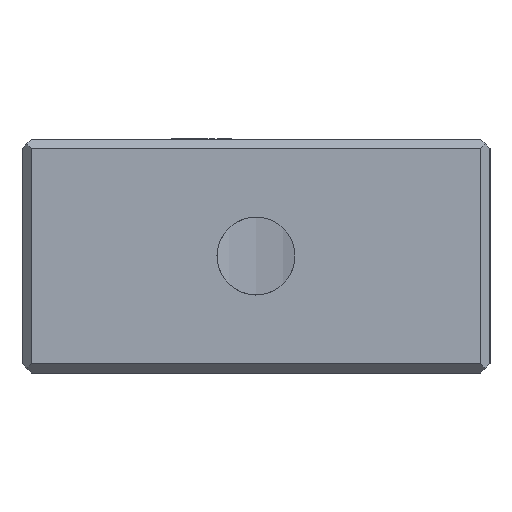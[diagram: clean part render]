
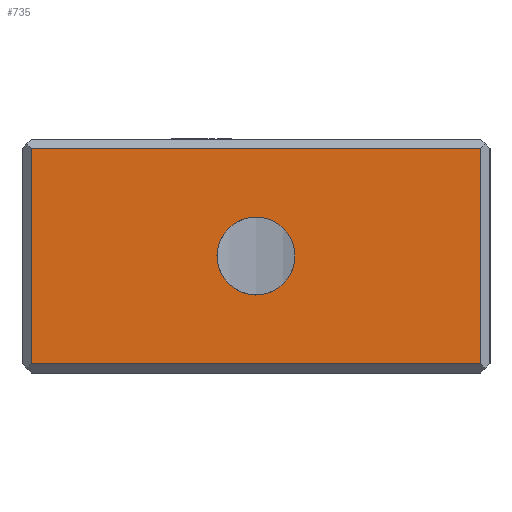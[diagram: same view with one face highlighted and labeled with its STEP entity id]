
A CAD part, left-side view. The second image highlights one B-rep face of the part: STEP entity #735.
In plain terms, the highlighted planar face has unit normal (-1, 0, 0).
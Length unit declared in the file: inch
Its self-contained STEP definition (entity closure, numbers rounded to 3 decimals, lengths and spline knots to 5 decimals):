
#685=CARTESIAN_POINT('',(0.0,0.75,0.0));
#686=DIRECTION('',(-1.0,0.0,0.0));
#687=DIRECTION('',(0.0,0.0,1.0));
#688=AXIS2_PLACEMENT_3D('',#685,#686,#687);
#689=PLANE('',#688);
#690=CARTESIAN_POINT('',(0.0,1.47,0.72));
#691=VERTEX_POINT('',#690);
#692=CARTESIAN_POINT('',(0.0,1.47,0.03));
#693=VERTEX_POINT('',#692);
#694=CARTESIAN_POINT('',(0.0,1.47,0.0));
#695=DIRECTION('',(0.0,0.0,-1.0));
#696=VECTOR('',#695,1.0);
#697=LINE('',#694,#696);
#698=EDGE_CURVE('',#691,#693,#697,.T.);
#699=ORIENTED_EDGE('',*,*,#698,.T.);
#700=CARTESIAN_POINT('',(0.0,0.03,0.03));
#701=VERTEX_POINT('',#700);
#702=CARTESIAN_POINT('',(0.0,0.75,0.03));
#703=DIRECTION('',(0.0,-1.0,0.0));
#704=VECTOR('',#703,1.0);
#705=LINE('',#702,#704);
#706=EDGE_CURVE('',#693,#701,#705,.T.);
#707=ORIENTED_EDGE('',*,*,#706,.T.);
#708=CARTESIAN_POINT('',(0.0,0.03,0.72));
#709=VERTEX_POINT('',#708);
#710=CARTESIAN_POINT('',(0.0,0.03,0.0));
#711=DIRECTION('',(0.0,0.0,1.0));
#712=VECTOR('',#711,1.0);
#713=LINE('',#710,#712);
#714=EDGE_CURVE('',#701,#709,#713,.T.);
#715=ORIENTED_EDGE('',*,*,#714,.T.);
#716=CARTESIAN_POINT('',(0.0,0.75,0.72));
#717=DIRECTION('',(0.0,1.0,0.0));
#718=VECTOR('',#717,1.0);
#719=LINE('',#716,#718);
#720=EDGE_CURVE('',#709,#691,#719,.T.);
#721=ORIENTED_EDGE('',*,*,#720,.T.);
#722=EDGE_LOOP('',(#699,#707,#715,#721));
#723=FACE_OUTER_BOUND('',#722,.T.);
#724=CARTESIAN_POINT('',(0.0,0.625,0.375));
#725=VERTEX_POINT('',#724);
#726=CARTESIAN_POINT('',(0.0,0.75,0.375));
#727=DIRECTION('',(-1.0,0.0,0.0));
#728=DIRECTION('',(0.0,-1.0,0.0));
#729=AXIS2_PLACEMENT_3D('',#726,#727,#728);
#730=CIRCLE('',#729,0.125);
#731=EDGE_CURVE('',#725,#725,#730,.T.);
#732=ORIENTED_EDGE('',*,*,#731,.F.);
#733=EDGE_LOOP('',(#732));
#734=FACE_BOUND('',#733,.T.);
#735=ADVANCED_FACE('',(#723,#734),#689,.T.);
